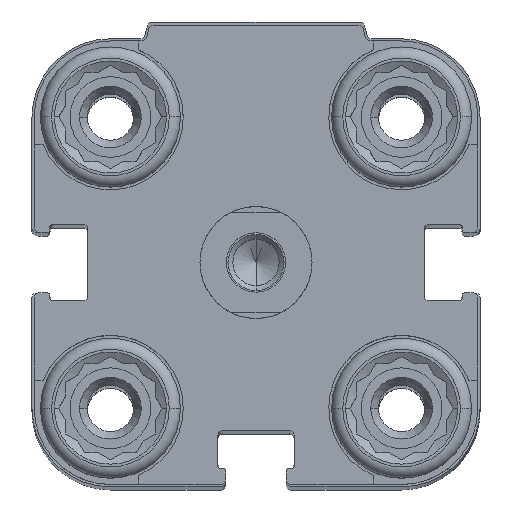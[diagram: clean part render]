
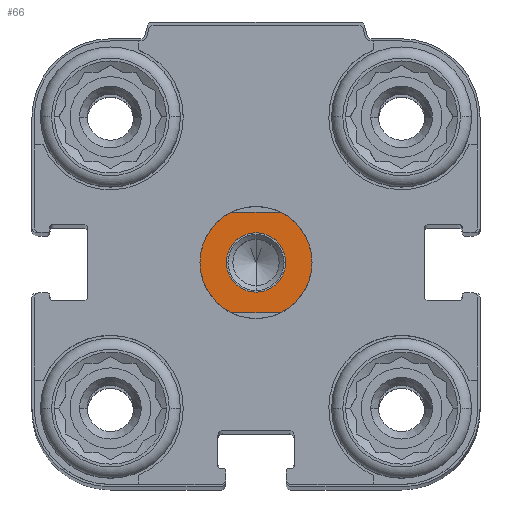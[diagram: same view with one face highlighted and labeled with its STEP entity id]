
A CAD part, top view. The second image highlights one B-rep face of the part: STEP entity #66.
In plain terms, the highlighted planar face has unit normal (0, 0, 1).
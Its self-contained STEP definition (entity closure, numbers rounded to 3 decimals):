
#66 = ADVANCED_FACE ( 'NONE', ( #11035, #16746 ), #6737, .F. ) ;
#740 = AXIS2_PLACEMENT_3D ( 'NONE', #7061, #12769, #1418 ) ;
#922 = VERTEX_POINT ( 'NONE', #13992 ) ;
#1244 = AXIS2_PLACEMENT_3D ( 'NONE', #10233, #1799, #15947 ) ;
#1418 = DIRECTION ( 'NONE',  ( -1., 0., 0. ) ) ;
#1677 = DIRECTION ( 'NONE',  ( -1., 0., 0. ) ) ;
#1728 = VERTEX_POINT ( 'NONE', #11194 ) ;
#1731 = CARTESIAN_POINT ( 'NONE',  ( -5., 0., 5.5 ) ) ;
#1799 = DIRECTION ( 'NONE',  ( 0., 0., -1. ) ) ;
#2434 = CARTESIAN_POINT ( 'NONE',  ( 5., 0., 5.5 ) ) ;
#2449 = DIRECTION ( 'NONE',  ( 0., 0., -1. ) ) ;
#2786 = CIRCLE ( 'NONE', #17166, 5. ) ;
#3200 = CARTESIAN_POINT ( 'NONE',  ( 9., -4.5, 5.5 ) ) ;
#3317 = ORIENTED_EDGE ( 'NONE', *, *, #13500, .T. ) ;
#3361 = ORIENTED_EDGE ( 'NONE', *, *, #12563, .F. ) ;
#3882 = EDGE_CURVE ( 'NONE', #16164, #16415, #2786, .T. ) ;
#4281 = EDGE_CURVE ( 'NONE', #8068, #1728, #11248, .T. ) ;
#4801 = LINE ( 'NONE', #3200, #16829 ) ;
#5181 = AXIS2_PLACEMENT_3D ( 'NONE', #8309, #9536, #5389 ) ;
#5389 = DIRECTION ( 'NONE',  ( -1., 0., 0. ) ) ;
#6481 = ORIENTED_EDGE ( 'NONE', *, *, #14845, .F. ) ;
#6737 = PLANE ( 'NONE',  #16725 ) ;
#7061 = CARTESIAN_POINT ( 'NONE',  ( 0., 0., 5.5 ) ) ;
#7297 = EDGE_CURVE ( 'NONE', #16415, #18526, #16433, .T. ) ;
#7533 = CARTESIAN_POINT ( 'NONE',  ( -9., 4.5, 5.5 ) ) ;
#7609 = CIRCLE ( 'NONE', #9411, 2.65 ) ;
#8068 = VERTEX_POINT ( 'NONE', #17957 ) ;
#8309 = CARTESIAN_POINT ( 'NONE',  ( 0., 0., 5.5 ) ) ;
#8778 = CIRCLE ( 'NONE', #5181, 5. ) ;
#9111 = VECTOR ( 'NONE', #10630, 1000. ) ;
#9129 = ORIENTED_EDGE ( 'NONE', *, *, #4281, .T. ) ;
#9350 = EDGE_LOOP ( 'NONE', ( #15171, #13875, #10436, #3361, #11679, #6481 ) ) ;
#9373 = CIRCLE ( 'NONE', #1244, 5. ) ;
#9411 = AXIS2_PLACEMENT_3D ( 'NONE', #12397, #2449, #11083 ) ;
#9536 = DIRECTION ( 'NONE',  ( 0., 0., -1. ) ) ;
#9553 = CARTESIAN_POINT ( 'NONE',  ( 0., 0., 5.5 ) ) ;
#10158 = CARTESIAN_POINT ( 'NONE',  ( 2.179, 4.5, 5.5 ) ) ;
#10233 = CARTESIAN_POINT ( 'NONE',  ( 0., 0., 5.5 ) ) ;
#10436 = ORIENTED_EDGE ( 'NONE', *, *, #16474, .F. ) ;
#10630 = DIRECTION ( 'NONE',  ( 1., 0., 0. ) ) ;
#10871 = CARTESIAN_POINT ( 'NONE',  ( -2.179, -4.5, 5.5 ) ) ;
#11035 = FACE_OUTER_BOUND ( 'NONE', #9350, .T. ) ;
#11083 = DIRECTION ( 'NONE',  ( 0., 1., 0. ) ) ;
#11194 = CARTESIAN_POINT ( 'NONE',  ( 0., -2.65, 5.5 ) ) ;
#11248 = CIRCLE ( 'NONE', #13345, 2.65 ) ;
#11520 = DIRECTION ( 'NONE',  ( 0., 0., -1. ) ) ;
#11679 = ORIENTED_EDGE ( 'NONE', *, *, #13193, .F. ) ;
#11706 = CARTESIAN_POINT ( 'NONE',  ( 0., 0., 5.5 ) ) ;
#11725 = DIRECTION ( 'NONE',  ( -1., 0., 0. ) ) ;
#12397 = CARTESIAN_POINT ( 'NONE',  ( 0., 0., 5.5 ) ) ;
#12563 = EDGE_CURVE ( 'NONE', #922, #16690, #4801, .T. ) ;
#12582 = CARTESIAN_POINT ( 'NONE',  ( -2.179, 4.5, 5.5 ) ) ;
#12706 = CIRCLE ( 'NONE', #740, 5. ) ;
#12769 = DIRECTION ( 'NONE',  ( 0., 0., -1. ) ) ;
#13193 = EDGE_CURVE ( 'NONE', #15139, #922, #8778, .T. ) ;
#13345 = AXIS2_PLACEMENT_3D ( 'NONE', #17502, #15997, #17313 ) ;
#13500 = EDGE_CURVE ( 'NONE', #1728, #8068, #7609, .T. ) ;
#13875 = ORIENTED_EDGE ( 'NONE', *, *, #3882, .F. ) ;
#13992 = CARTESIAN_POINT ( 'NONE',  ( 2.179, -4.5, 5.5 ) ) ;
#14031 = DIRECTION ( 'NONE',  ( 0., 0., -1. ) ) ;
#14845 = EDGE_CURVE ( 'NONE', #18526, #15139, #9373, .T. ) ;
#15139 = VERTEX_POINT ( 'NONE', #2434 ) ;
#15171 = ORIENTED_EDGE ( 'NONE', *, *, #7297, .F. ) ;
#15344 = DIRECTION ( 'NONE',  ( 0., 1., 0. ) ) ;
#15947 = DIRECTION ( 'NONE',  ( -1., 0., 0. ) ) ;
#15997 = DIRECTION ( 'NONE',  ( 0., 0., -1. ) ) ;
#16164 = VERTEX_POINT ( 'NONE', #1731 ) ;
#16415 = VERTEX_POINT ( 'NONE', #12582 ) ;
#16433 = LINE ( 'NONE', #7533, #9111 ) ;
#16474 = EDGE_CURVE ( 'NONE', #16690, #16164, #12706, .T. ) ;
#16690 = VERTEX_POINT ( 'NONE', #10871 ) ;
#16725 = AXIS2_PLACEMENT_3D ( 'NONE', #9553, #14031, #15344 ) ;
#16746 = FACE_BOUND ( 'NONE', #18541, .T. ) ;
#16829 = VECTOR ( 'NONE', #11725, 1000. ) ;
#17166 = AXIS2_PLACEMENT_3D ( 'NONE', #11706, #11520, #1677 ) ;
#17313 = DIRECTION ( 'NONE',  ( 0., 1., 0. ) ) ;
#17502 = CARTESIAN_POINT ( 'NONE',  ( 0., 0., 5.5 ) ) ;
#17957 = CARTESIAN_POINT ( 'NONE',  ( 0., 2.65, 5.5 ) ) ;
#18526 = VERTEX_POINT ( 'NONE', #10158 ) ;
#18541 = EDGE_LOOP ( 'NONE', ( #9129, #3317 ) ) ;
